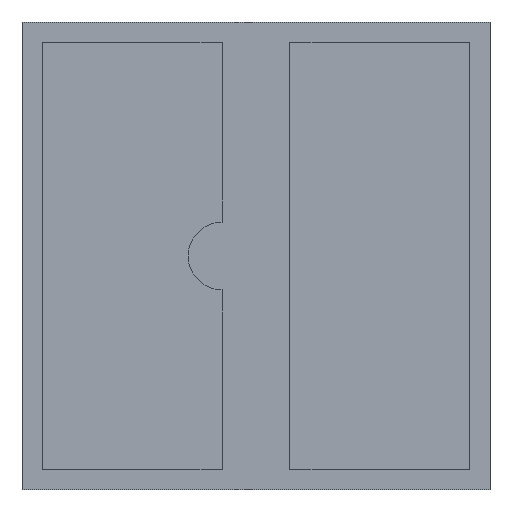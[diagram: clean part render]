
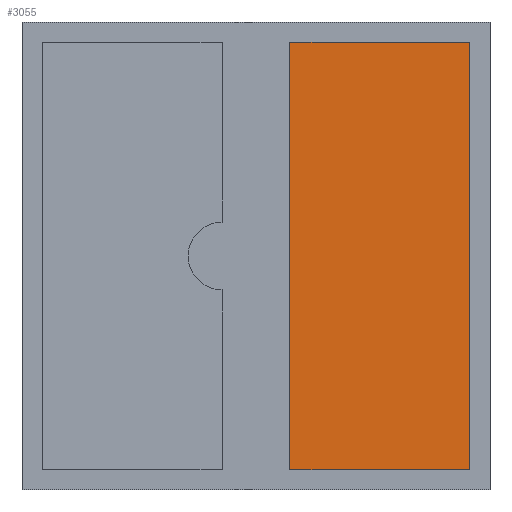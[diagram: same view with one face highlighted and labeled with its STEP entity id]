
A CAD part, front view. The second image highlights one B-rep face of the part: STEP entity #3055.
In plain terms, the highlighted planar face has unit normal (0, -1, 0).
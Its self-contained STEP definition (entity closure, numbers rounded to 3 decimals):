
#225=PLANE('',#3523);
#360=FACE_OUTER_BOUND('',#538,.T.);
#538=EDGE_LOOP('',(#2426,#2427,#2428,#2429));
#778=LINE('',#4979,#1090);
#779=LINE('',#4981,#1091);
#780=LINE('',#4983,#1092);
#781=LINE('',#4984,#1093);
#1090=VECTOR('',#4066,1000.);
#1091=VECTOR('',#4067,1000.);
#1092=VECTOR('',#4068,1000.);
#1093=VECTOR('',#4069,1000.);
#1504=VERTEX_POINT('',#4977);
#1505=VERTEX_POINT('',#4978);
#1506=VERTEX_POINT('',#4980);
#1507=VERTEX_POINT('',#4982);
#1840=EDGE_CURVE('',#1504,#1505,#778,.T.);
#1841=EDGE_CURVE('',#1505,#1506,#779,.T.);
#1842=EDGE_CURVE('',#1506,#1507,#780,.T.);
#1843=EDGE_CURVE('',#1507,#1504,#781,.T.);
#2426=ORIENTED_EDGE('',*,*,#1840,.T.);
#2427=ORIENTED_EDGE('',*,*,#1841,.T.);
#2428=ORIENTED_EDGE('',*,*,#1842,.T.);
#2429=ORIENTED_EDGE('',*,*,#1843,.T.);
#3055=ADVANCED_FACE('',(#360),#225,.T.);
#3523=AXIS2_PLACEMENT_3D('',#4976,#4064,#4065);
#4064=DIRECTION('center_axis',(0.,-1.,0.));
#4065=DIRECTION('ref_axis',(0.,0.,-1.));
#4066=DIRECTION('',(0.,0.,1.));
#4067=DIRECTION('',(-1.,0.,0.));
#4068=DIRECTION('',(0.,0.,-1.));
#4069=DIRECTION('',(1.,0.,0.));
#4976=CARTESIAN_POINT('Origin',(0.,-0.2,0.));
#4977=CARTESIAN_POINT('',(1.575,-0.2,-1.575));
#4978=CARTESIAN_POINT('',(1.575,-0.2,1.575));
#4979=CARTESIAN_POINT('',(1.575,-0.2,0.));
#4980=CARTESIAN_POINT('',(0.25,-0.2,1.575));
#4981=CARTESIAN_POINT('',(0.,-0.2,1.575));
#4982=CARTESIAN_POINT('',(0.25,-0.2,-1.575));
#4983=CARTESIAN_POINT('',(0.25,-0.2,0.));
#4984=CARTESIAN_POINT('',(0.,-0.2,-1.575));
